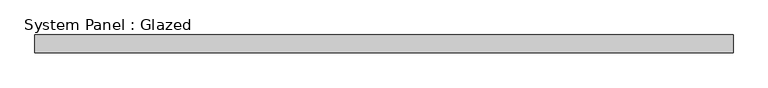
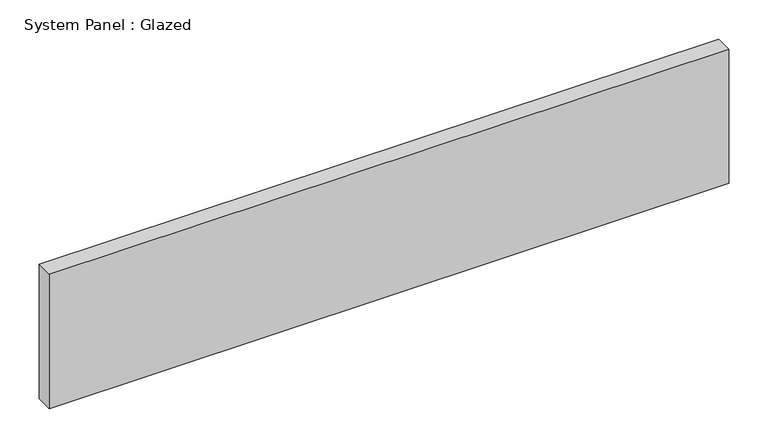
"""IFC4 building model written with IfcOpenShell, lengths in millimetres: plate geometry, System Panel : Glazed."""

import ifcopenshell
import ifcopenshell.guid

model = None  # the IFC model being written
_history = None  # IfcOwnerHistory: only IFC2X3 demands one
_inside = {}  # id of a spatial element -> (the spatial element, [elements in it])
_under = {}  # id of a project, library or spatial element -> (it, [spatial elements below it])
_declared = {}  # id of a project -> (the project, [libraries it declares])
_typed = {}  # id of a type object -> (the type object, [elements of that type])
_made_of = {}  # id of a material, layer set ... -> (it, [elements and type objects made of it])


def new_model(schema):
    """Start an empty IFC model of exactly this schema.

    Asked for "IFC4X3", IfcOpenShell would pick the latest addendum, in which some entities
    have other attributes; the version numbers below select the first issue.
    IFC2X3 requires an IfcOwnerHistory on every rooted entity: one is made here for all.
    """
    global model, _history
    if schema == "IFC4X3":
        model = ifcopenshell.file(schema_version=(4, 3, 0, 0))
    else:
        model = ifcopenshell.file(schema=schema)
    _inside.clear()
    _under.clear()
    _declared.clear()
    _typed.clear()
    _made_of.clear()
    _history = None
    if model.schema == "IFC2X3":
        org = make("IfcOrganization", Name="unknown")
        user = make(
            "IfcPersonAndOrganization",
            ThePerson=make("IfcPerson", FamilyName="unknown"),
            TheOrganization=org,
        )
        app = make(
            "IfcApplication",
            ApplicationDeveloper=org,
            Version="unknown",
            ApplicationFullName="unknown",
            ApplicationIdentifier="unknown",
        )
        _history = make(
            "IfcOwnerHistory",
            OwningUser=user,
            OwningApplication=app,
            ChangeAction="ADDED",
            CreationDate=0,
        )
    return model


def make(cls, **values):
    """One entity of the class cls with the attributes given. An attribute that is None is left unset."""
    return model.create_entity(
        cls, **{name: value for name, value in values.items() if value is not None}
    )


def rooted(cls, **values):
    """An entity with a GlobalId (a new one), such as an element, a storey or a relation."""
    return make(cls, GlobalId=ifcopenshell.guid.new(), OwnerHistory=_history, **values)


def si_unit(unit_type, name, prefix=None):
    """IfcSIUnit, for example si_unit("LENGTHUNIT", "METRE", prefix="MILLI")."""
    return make("IfcSIUnit", UnitType=unit_type, Prefix=prefix, Name=name)


def assignment(units):
    """IfcUnitAssignment: the units of a project."""
    return None if units is None else make("IfcUnitAssignment", Units=units)


def point(xyz):
    """IfcCartesianPoint."""
    return None if xyz is None else make("IfcCartesianPoint", Coordinates=xyz)


def direction(xyz):
    """IfcDirection."""
    return None if xyz is None else make("IfcDirection", DirectionRatios=xyz)


def frame(location, z_axis=None, x_axis=None):
    """IfcAxis2Placement3D, a coordinate frame: its origin and axes. An axis left out is left unset."""
    return make(
        "IfcAxis2Placement3D",
        Location=point(location),
        Axis=direction(z_axis),
        RefDirection=direction(x_axis),
    )


def origin():
    """The frame at (0, 0, 0) with its axes left unset."""
    return frame((0.0, 0.0, 0.0))


def origin_with_axes():
    """The frame at (0, 0, 0) with the z axis (0, 0, 1) and the x axis (1, 0, 0) written out."""
    return frame((0.0, 0.0, 0.0), z_axis=(0.0, 0.0, 1.0), x_axis=(1.0, 0.0, 0.0))


def place(relative_to, where):
    """IfcLocalPlacement: puts the frame where relative to a parent placement (None: the world)."""
    return make(
        "IfcLocalPlacement", PlacementRelTo=relative_to, RelativePlacement=where
    )


def context(
    kind, dimensions, precision=None, world=None, true_north=None, identifier=None
):
    """IfcGeometricRepresentationContext, for example the 3D "Model" context."""
    return make(
        "IfcGeometricRepresentationContext",
        ContextIdentifier=identifier,
        ContextType=kind,
        CoordinateSpaceDimension=dimensions,
        Precision=precision,
        WorldCoordinateSystem=world,
        TrueNorth=true_north,
    )


def project(units=None, contexts=None):
    """IfcProject with its units and contexts."""
    return rooted(
        "IfcProject",
        Name="project",
        RepresentationContexts=contexts,
        UnitsInContext=assignment(units),
    )


def spatial(cls, under=None, at=None, **own):
    """A site, building, storey or space (cls), placed at a placement, below another one or the project."""
    s = rooted(cls, ObjectPlacement=at, **own)
    if under is not None:
        _under.setdefault(under.id(), (under, []))[1].append(s)
    return s


def polyline(points):
    """IfcPolyline through the points."""
    return make("IfcPolyline", Points=[point(p) for p in points])


def outline(outer, holes=None, kind="AREA"):
    """IfcArbitraryClosedProfileDef: a profile drawn as a closed curve; with holes, ...WithVoids."""
    if holes is None:
        return make("IfcArbitraryClosedProfileDef", ProfileType=kind, OuterCurve=outer)
    return make(
        "IfcArbitraryProfileDefWithVoids",
        ProfileType=kind,
        OuterCurve=outer,
        InnerCurves=holes,
    )


def extrude(swept, where, along, depth):
    """IfcExtrudedAreaSolid: the profile swept, set in the frame where, extruded along a direction by depth."""
    return make(
        "IfcExtrudedAreaSolid",
        SweptArea=swept,
        Position=where,
        ExtrudedDirection=direction(along),
        Depth=depth,
    )


def shape(context_of_items, identifier, shape_type, items):
    """IfcShapeRepresentation: the items that make up one representation, for example the "Body"."""
    return make(
        "IfcShapeRepresentation",
        ContextOfItems=context_of_items,
        RepresentationIdentifier=identifier,
        RepresentationType=shape_type,
        Items=items,
    )


def source(mapping_origin, context_of_items, identifier, shape_type, items):
    """IfcRepresentationMap: a shape defined once, which mapped items show again and again."""
    return make(
        "IfcRepresentationMap",
        MappingOrigin=mapping_origin,
        MappedRepresentation=shape(context_of_items, identifier, shape_type, items),
    )


def transform(
    local_origin,
    x_axis=None,
    y_axis=None,
    z_axis=None,
    scale=None,
    scale2=None,
    scale3=None,
    uniform=True,
):
    """IfcCartesianTransformationOperator3D, or its non-uniform kind. x_axis, y_axis, z_axis: its Axis1, 2, 3."""
    if uniform:
        return make(
            "IfcCartesianTransformationOperator3D",
            Axis1=direction(x_axis),
            Axis2=direction(y_axis),
            LocalOrigin=point(local_origin),
            Scale=scale,
            Axis3=direction(z_axis),
        )
    return make(
        "IfcCartesianTransformationOperator3DnonUniform",
        Axis1=direction(x_axis),
        Axis2=direction(y_axis),
        LocalOrigin=point(local_origin),
        Scale=scale,
        Axis3=direction(z_axis),
        Scale2=scale2,
        Scale3=scale3,
    )


def mapped(mapping_source, mapping_target):
    """IfcMappedItem: shows the shape of a source again, moved by a transform."""
    return make(
        "IfcMappedItem", MappingSource=mapping_source, MappingTarget=mapping_target
    )


def made_of(thing, what):
    """Note that an element or type object is made of a material, layer set ...; save() writes the relation."""
    if what is not None:
        _made_of.setdefault(what.id(), (what, []))[1].append(thing)
    return thing


def element(
    cls,
    number,
    at=None,
    inside=None,
    cuts=None,
    type_object=None,
    material=None,
    context=None,
    identifier="Body",
    shape_type=None,
    held_by="IfcProductDefinitionShape",
    body=None,
    shapes=None,
    **own,
):
    """One element of the class cls, such as IfcWall. Its Tag is "e" and its number.

    at: its placement. inside: the storey or other place that contains it. cuts: it is an
    opening in that element (IfcRelVoidsElement). A single representation is given by context,
    identifier, shape_type and body (its items); several are given by shapes. held_by: the class
    of the entity that holds the representations. save() writes the other relations.
    """
    e = rooted(cls, Tag="e%d" % number, ObjectPlacement=at, **own)
    if body is not None:
        shapes = [shape(context, identifier, shape_type, body)]
    if shapes is not None:
        e.Representation = make(held_by, Representations=shapes)
    if inside is not None:
        _inside.setdefault(inside.id(), (inside, []))[1].append(e)
    if cuts is not None:
        rooted(
            "IfcRelVoidsElement", RelatingBuildingElement=cuts, RelatedOpeningElement=e
        )
    if type_object is not None:
        _typed.setdefault(type_object.id(), (type_object, []))[1].append(e)
    return made_of(e, material)


def aggregate(whole, parts):
    """IfcRelAggregates: a whole, such as a stair, and the parts it consists of."""
    return rooted("IfcRelAggregates", RelatingObject=whole, RelatedObjects=parts)


def save(model, path):
    """Write the relations noted so far, then the file.

    IfcRelAggregates (storeys below a building ...), IfcRelContainedInSpatialStructure (elements
    in a storey), IfcRelDefinesByType, IfcRelAssociatesMaterial and IfcRelDeclares: one each for
    every whole, place, type object, material and project.
    """
    for whole, parts in _under.values():
        aggregate(whole, parts)
    for where, things in _inside.values():
        rooted(
            "IfcRelContainedInSpatialStructure",
            RelatedElements=things,
            RelatingStructure=where,
        )
    for kind, things in _typed.values():
        rooted("IfcRelDefinesByType", RelatedObjects=things, RelatingType=kind)
    for what, things in _made_of.values():
        rooted("IfcRelAssociatesMaterial", RelatedObjects=things, RelatingMaterial=what)
    for by, libraries in _declared.values():
        rooted("IfcRelDeclares", RelatingContext=by, RelatedDefinitions=libraries)
    model.write(path)


def system_panel_glazed_07a2db1d(model_context):
    return source(origin(), model_context, "Body", "SweptSolid", [
        extrude(outline(polyline([(501.1964285, 19.05), (-501.1964285, 19.05), (-501.1964285, 44.45), (501.1964285, 44.45), (501.1964285, 19.05)])), origin_with_axes(), (0.0, 0.0, 1.0), 209.55),
    ])


if __name__ == "__main__":
    model = new_model("IFC4")
    model_context = context("Model", 3, world=origin())
    ifc_project = project(units=[si_unit("LENGTHUNIT", "METRE", prefix="MILLI")], contexts=[model_context])
    site = spatial("IfcSite", under=ifc_project)
    building = spatial("IfcBuilding", under=site)
    placement = place(None, origin())
    system_panel_glazed_shape = system_panel_glazed_07a2db1d(model_context)
    element("IfcPlate", 1, ObjectType="System Panel : Glazed", at=placement, inside=building, context=model_context, shape_type="MappedRepresentation", body=[
        mapped(system_panel_glazed_shape, transform((0.0, 0.0, 0.0), x_axis=(1.0, 0.0, 0.0), y_axis=(0.0, 1.0, 0.0), z_axis=(0.0, 0.0, 1.0))),
    ])
    save(model, "model.ifc")
